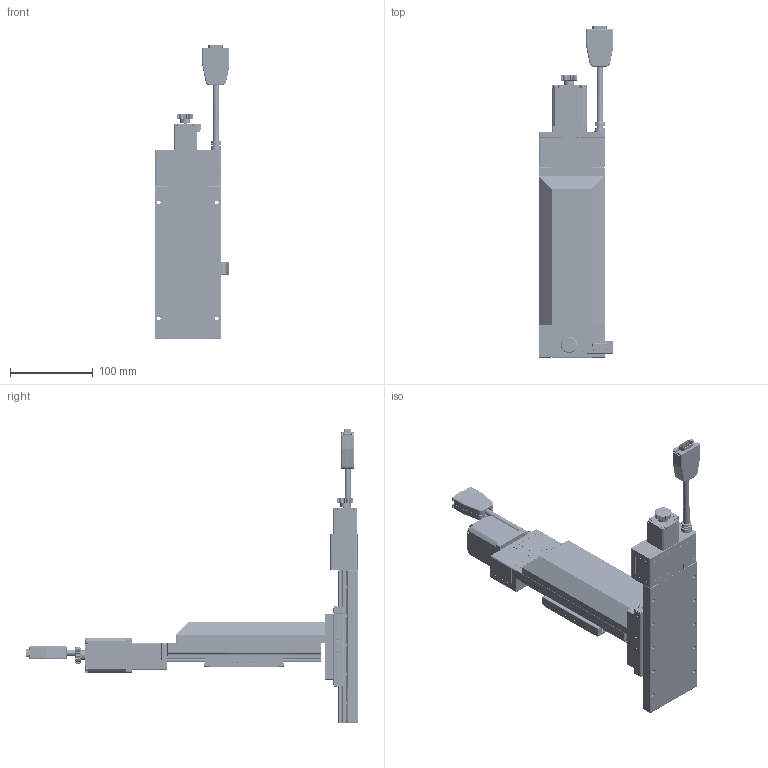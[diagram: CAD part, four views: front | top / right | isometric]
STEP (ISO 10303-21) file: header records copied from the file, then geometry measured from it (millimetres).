
FILE_DESCRIPTION (( 'STEP AP203' ), '1' );
FILE_NAME ('CXZN8075-S2?N.STEP', '2023-10-02T07:30:52', ( '' ), ( '' ), 'SwSTEP 2.0', 'SolidWorks 2019', '' );
FILE_SCHEMA (( 'CONFIG_CONTROL_DESIGN' ));
Length unit declared in the file: millimetre
Products named in the file (8): CZLN8075-S2?N.STEP; CXN80_GMT.STEP_GMT; Group1^CZLN8075-S2_N(2023_s__)_defeature_GMT.STEP_GMT; CXZN8075-S2?N; Group1^CXN8075-S2_N(2023_s__)_defeature_GMT.STEP_GMT; Group2^CZLN8075-S2_N(2023_s__)_defeature_GMT.STEP_GMT; CXN8075-S2?N.STEP; Group2^CXN8075-S2_N(2023_s__)_defeature_GMT.STEP_GMT
Assembly tree (8 placements, depth 3):
  CXZN8075-S2?N
    CXN8075-S2?N.STEP
      Group1^CXN8075-S2_N(2023_s__)_defeature_GMT.STEP_GMT
      Group2^CXN8075-S2_N(2023_s__)_defeature_GMT.STEP_GMT
      CXN80_GMT.STEP_GMT
    CZLN8075-S2?N.STEP
      Group1^CZLN8075-S2_N(2023_s__)_defeature_GMT.STEP_GMT
      Group2^CZLN8075-S2_N(2023_s__)_defeature_GMT.STEP_GMT
      CXN80_GMT.STEP_GMT
Bounding box: 90.5 x 400.6 x 355.6 mm (x, y, z)
Volume: 120034.4 mm3; surface area: 319491.5 mm2
Topology: 47 solids, 69 shells, 8553 faces, 22421 edges, 13844 vertices
Faces by surface type: plane 3150, cylinder 2564, cone 1091, torus 900, bspline 516, sphere 332
Entity records: 313704 total; most frequent: CARTESIAN_POINT 133777, ORIENTED_EDGE 43066, DIRECTION 28931, EDGE_CURVE 21649, VERTEX_POINT 13619, B_SPLINE_CURVE_WITH_KNOTS 13154, AXIS2_PLACEMENT_3D 12777, EDGE_LOOP 8808
